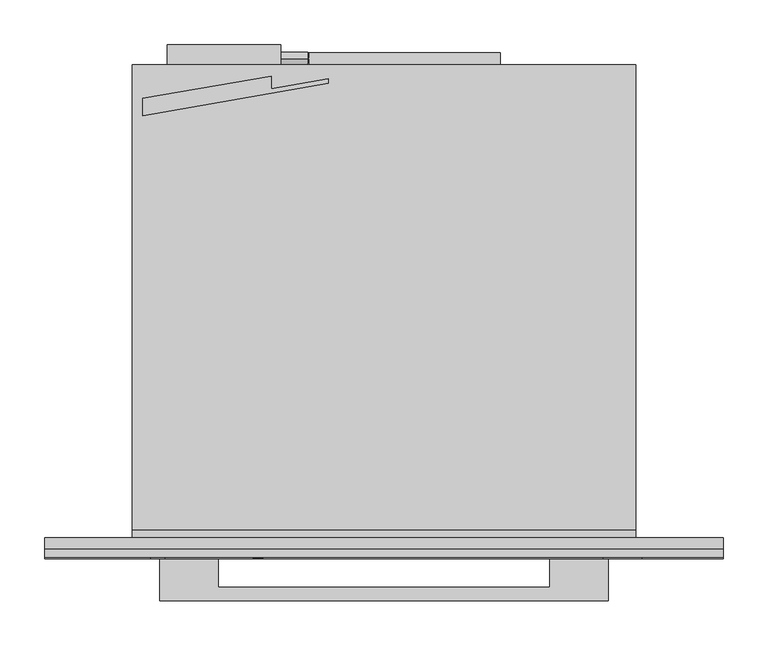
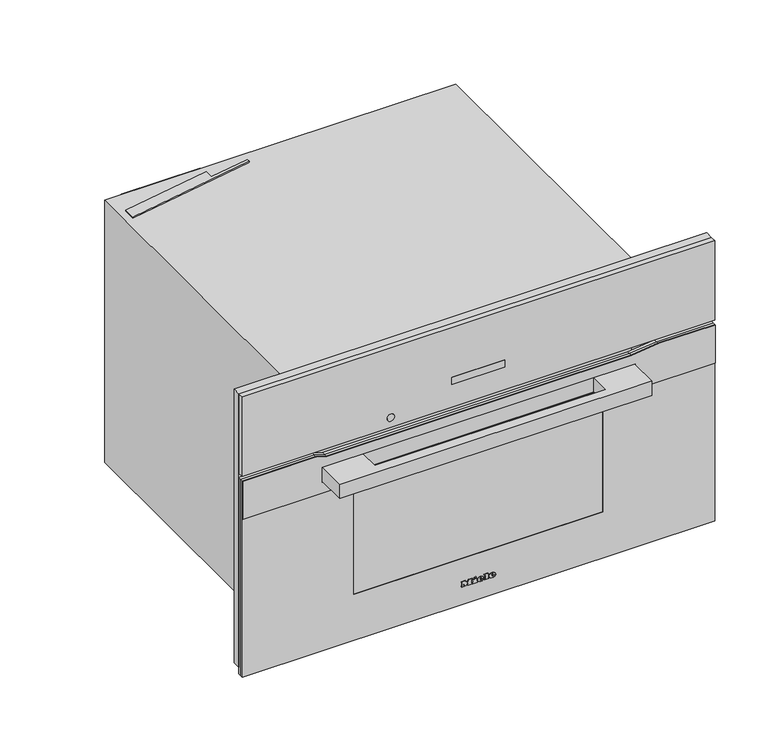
"""IFC4 building model written with IfcOpenShell, lengths in millimetres: proxy geometry, 11804570_USA_H7270BM_EDST-CLST : 22727046_USA_11804570_H7270BM_EDST-CLST."""

import ifcopenshell
import ifcopenshell.guid

model = None  # the IFC model being written
_history = None  # IfcOwnerHistory: only IFC2X3 demands one
_inside = {}  # id of a spatial element -> (the spatial element, [elements in it])
_under = {}  # id of a project, library or spatial element -> (it, [spatial elements below it])
_declared = {}  # id of a project -> (the project, [libraries it declares])
_typed = {}  # id of a type object -> (the type object, [elements of that type])
_made_of = {}  # id of a material, layer set ... -> (it, [elements and type objects made of it])


def new_model(schema):
    """Start an empty IFC model of exactly this schema.

    Asked for "IFC4X3", IfcOpenShell would pick the latest addendum, in which some entities
    have other attributes; the version numbers below select the first issue.
    IFC2X3 requires an IfcOwnerHistory on every rooted entity: one is made here for all.
    """
    global model, _history
    if schema == "IFC4X3":
        model = ifcopenshell.file(schema_version=(4, 3, 0, 0))
    else:
        model = ifcopenshell.file(schema=schema)
    _inside.clear()
    _under.clear()
    _declared.clear()
    _typed.clear()
    _made_of.clear()
    _history = None
    if model.schema == "IFC2X3":
        org = make("IfcOrganization", Name="unknown")
        user = make(
            "IfcPersonAndOrganization",
            ThePerson=make("IfcPerson", FamilyName="unknown"),
            TheOrganization=org,
        )
        app = make(
            "IfcApplication",
            ApplicationDeveloper=org,
            Version="unknown",
            ApplicationFullName="unknown",
            ApplicationIdentifier="unknown",
        )
        _history = make(
            "IfcOwnerHistory",
            OwningUser=user,
            OwningApplication=app,
            ChangeAction="ADDED",
            CreationDate=0,
        )
    return model


def make(cls, **values):
    """One entity of the class cls with the attributes given. An attribute that is None is left unset."""
    return model.create_entity(
        cls, **{name: value for name, value in values.items() if value is not None}
    )


def rooted(cls, **values):
    """An entity with a GlobalId (a new one), such as an element, a storey or a relation."""
    return make(cls, GlobalId=ifcopenshell.guid.new(), OwnerHistory=_history, **values)


def si_unit(unit_type, name, prefix=None):
    """IfcSIUnit, for example si_unit("LENGTHUNIT", "METRE", prefix="MILLI")."""
    return make("IfcSIUnit", UnitType=unit_type, Prefix=prefix, Name=name)


def assignment(units):
    """IfcUnitAssignment: the units of a project."""
    return None if units is None else make("IfcUnitAssignment", Units=units)


def point(xyz):
    """IfcCartesianPoint."""
    return None if xyz is None else make("IfcCartesianPoint", Coordinates=xyz)


def direction(xyz):
    """IfcDirection."""
    return None if xyz is None else make("IfcDirection", DirectionRatios=xyz)


def frame(location, z_axis=None, x_axis=None):
    """IfcAxis2Placement3D, a coordinate frame: its origin and axes. An axis left out is left unset."""
    return make(
        "IfcAxis2Placement3D",
        Location=point(location),
        Axis=direction(z_axis),
        RefDirection=direction(x_axis),
    )


def frame_2d(location, x_axis=None):
    """IfcAxis2Placement2D, a coordinate frame in the plane: its origin and x axis."""
    return make(
        "IfcAxis2Placement2D", Location=point(location), RefDirection=direction(x_axis)
    )


def origin():
    """The frame at (0, 0, 0) with its axes left unset."""
    return frame((0.0, 0.0, 0.0))


def place(relative_to, where):
    """IfcLocalPlacement: puts the frame where relative to a parent placement (None: the world)."""
    return make(
        "IfcLocalPlacement", PlacementRelTo=relative_to, RelativePlacement=where
    )


def context(
    kind, dimensions, precision=None, world=None, true_north=None, identifier=None
):
    """IfcGeometricRepresentationContext, for example the 3D "Model" context."""
    return make(
        "IfcGeometricRepresentationContext",
        ContextIdentifier=identifier,
        ContextType=kind,
        CoordinateSpaceDimension=dimensions,
        Precision=precision,
        WorldCoordinateSystem=world,
        TrueNorth=true_north,
    )


def project(units=None, contexts=None):
    """IfcProject with its units and contexts."""
    return rooted(
        "IfcProject",
        Name="project",
        RepresentationContexts=contexts,
        UnitsInContext=assignment(units),
    )


def spatial(cls, under=None, at=None, **own):
    """A site, building, storey or space (cls), placed at a placement, below another one or the project."""
    s = rooted(cls, ObjectPlacement=at, **own)
    if under is not None:
        _under.setdefault(under.id(), (under, []))[1].append(s)
    return s


def polyline(points):
    """IfcPolyline through the points."""
    return make("IfcPolyline", Points=[point(p) for p in points])


def circle_curve(where, radius):
    """IfcCircle in the frame where."""
    return make("IfcCircle", Position=where, Radius=radius)


def ellipse_curve(where, semi_axis1, semi_axis2):
    """IfcEllipse in the frame where."""
    return make(
        "IfcEllipse", Position=where, SemiAxis1=semi_axis1, SemiAxis2=semi_axis2
    )


def trimmed(basis, trim1, trim2, sense, master):
    """IfcTrimmedCurve: the piece of a basis curve between two trims."""
    return make(
        "IfcTrimmedCurve",
        BasisCurve=basis,
        Trim1=trim1,
        Trim2=trim2,
        SenseAgreement=sense,
        MasterRepresentation=master,
    )


def segment(curve, same_sense, transition):
    """IfcCompositeCurveSegment."""
    return make(
        "IfcCompositeCurveSegment",
        Transition=transition,
        SameSense=same_sense,
        ParentCurve=curve,
    )


def composite_curve(segments, self_intersect=None):
    """IfcCompositeCurve: segments joined end to end."""
    return make("IfcCompositeCurve", Segments=segments, SelfIntersect=self_intersect)


def outline(outer, holes=None, kind="AREA"):
    """IfcArbitraryClosedProfileDef: a profile drawn as a closed curve; with holes, ...WithVoids."""
    if holes is None:
        return make("IfcArbitraryClosedProfileDef", ProfileType=kind, OuterCurve=outer)
    return make(
        "IfcArbitraryProfileDefWithVoids",
        ProfileType=kind,
        OuterCurve=outer,
        InnerCurves=holes,
    )


def extrude(swept, where, along, depth):
    """IfcExtrudedAreaSolid: the profile swept, set in the frame where, extruded along a direction by depth."""
    return make(
        "IfcExtrudedAreaSolid",
        SweptArea=swept,
        Position=where,
        ExtrudedDirection=direction(along),
        Depth=depth,
    )


def faces_of(points, faces, orient=None, outer=None):
    """IfcFace entities. A face is a list of loops; a loop is a list of indices into points, from 0.

    orient and outer hold one flag for each loop. By default every Orientation is true, the
    first loop of a face is its IfcFaceOuterBound and the others are IfcFaceBound.
    """
    made = []
    for i, loops in enumerate(faces):
        bounds = []
        for j, loop in enumerate(loops):
            is_outer = j == 0 if outer is None else outer[i][j]
            bounds.append(
                make(
                    "IfcFaceOuterBound" if is_outer else "IfcFaceBound",
                    Bound=make("IfcPolyLoop", Polygon=[points[k] for k in loop]),
                    Orientation=True if orient is None else orient[i][j],
                )
            )
        made.append(make("IfcFace", Bounds=bounds))
    return made


def faceted_brep(points, faces, orient=None, outer=None, voids=None):
    """IfcFacetedBrep: a solid bounded by flat faces; with voids (closed shells), ...WithVoids."""
    shared = [point(p) for p in points]
    hull = make("IfcClosedShell", CfsFaces=faces_of(shared, faces, orient, outer))
    if voids is None:
        return make("IfcFacetedBrep", Outer=hull)
    return make(
        "IfcFacetedBrepWithVoids",
        Outer=hull,
        Voids=[
            make(cls, CfsFaces=faces_of(shared, fs, o, b)) for cls, fs, o, b in voids
        ],
    )


def shape(context_of_items, identifier, shape_type, items):
    """IfcShapeRepresentation: the items that make up one representation, for example the "Body"."""
    return make(
        "IfcShapeRepresentation",
        ContextOfItems=context_of_items,
        RepresentationIdentifier=identifier,
        RepresentationType=shape_type,
        Items=items,
    )


def source(mapping_origin, context_of_items, identifier, shape_type, items):
    """IfcRepresentationMap: a shape defined once, which mapped items show again and again."""
    return make(
        "IfcRepresentationMap",
        MappingOrigin=mapping_origin,
        MappedRepresentation=shape(context_of_items, identifier, shape_type, items),
    )


def transform(
    local_origin,
    x_axis=None,
    y_axis=None,
    z_axis=None,
    scale=None,
    scale2=None,
    scale3=None,
    uniform=True,
):
    """IfcCartesianTransformationOperator3D, or its non-uniform kind. x_axis, y_axis, z_axis: its Axis1, 2, 3."""
    if uniform:
        return make(
            "IfcCartesianTransformationOperator3D",
            Axis1=direction(x_axis),
            Axis2=direction(y_axis),
            LocalOrigin=point(local_origin),
            Scale=scale,
            Axis3=direction(z_axis),
        )
    return make(
        "IfcCartesianTransformationOperator3DnonUniform",
        Axis1=direction(x_axis),
        Axis2=direction(y_axis),
        LocalOrigin=point(local_origin),
        Scale=scale,
        Axis3=direction(z_axis),
        Scale2=scale2,
        Scale3=scale3,
    )


def mapped(mapping_source, mapping_target):
    """IfcMappedItem: shows the shape of a source again, moved by a transform."""
    return make(
        "IfcMappedItem", MappingSource=mapping_source, MappingTarget=mapping_target
    )


def made_of(thing, what):
    """Note that an element or type object is made of a material, layer set ...; save() writes the relation."""
    if what is not None:
        _made_of.setdefault(what.id(), (what, []))[1].append(thing)
    return thing


def element(
    cls,
    number,
    at=None,
    inside=None,
    cuts=None,
    type_object=None,
    material=None,
    context=None,
    identifier="Body",
    shape_type=None,
    held_by="IfcProductDefinitionShape",
    body=None,
    shapes=None,
    **own,
):
    """One element of the class cls, such as IfcWall. Its Tag is "e" and its number.

    at: its placement. inside: the storey or other place that contains it. cuts: it is an
    opening in that element (IfcRelVoidsElement). A single representation is given by context,
    identifier, shape_type and body (its items); several are given by shapes. held_by: the class
    of the entity that holds the representations. save() writes the other relations.
    """
    e = rooted(cls, Tag="e%d" % number, ObjectPlacement=at, **own)
    if body is not None:
        shapes = [shape(context, identifier, shape_type, body)]
    if shapes is not None:
        e.Representation = make(held_by, Representations=shapes)
    if inside is not None:
        _inside.setdefault(inside.id(), (inside, []))[1].append(e)
    if cuts is not None:
        rooted(
            "IfcRelVoidsElement", RelatingBuildingElement=cuts, RelatedOpeningElement=e
        )
    if type_object is not None:
        _typed.setdefault(type_object.id(), (type_object, []))[1].append(e)
    return made_of(e, material)


def aggregate(whole, parts):
    """IfcRelAggregates: a whole, such as a stair, and the parts it consists of."""
    return rooted("IfcRelAggregates", RelatingObject=whole, RelatedObjects=parts)


def save(model, path):
    """Write the relations noted so far, then the file.

    IfcRelAggregates (storeys below a building ...), IfcRelContainedInSpatialStructure (elements
    in a storey), IfcRelDefinesByType, IfcRelAssociatesMaterial and IfcRelDeclares: one each for
    every whole, place, type object, material and project.
    """
    for whole, parts in _under.values():
        aggregate(whole, parts)
    for where, things in _inside.values():
        rooted(
            "IfcRelContainedInSpatialStructure",
            RelatedElements=things,
            RelatingStructure=where,
        )
    for kind, things in _typed.values():
        rooted("IfcRelDefinesByType", RelatedObjects=things, RelatingType=kind)
    for what, things in _made_of.values():
        rooted("IfcRelAssociatesMaterial", RelatedObjects=things, RelatingMaterial=what)
    for by, libraries in _declared.values():
        rooted("IfcRelDeclares", RelatingContext=by, RelatedDefinitions=libraries)
    model.write(path)


def plane_surface(at):
    """IfcPlane: the flat surface through the origin of the frame at, square to its z axis."""
    return make("IfcPlane", Position=at)


def cylinder_surface(at, radius):
    """IfcCylindricalSurface: all points at the distance radius from the z axis of the frame at."""
    return make("IfcCylindricalSurface", Position=at, Radius=radius)


def revolved_surface(curve, axis_point, axis_direction):
    """IfcSurfaceOfRevolution: the curve turned about the line through axis_point along axis_direction."""
    return make(
        "IfcSurfaceOfRevolution",
        SweptCurve=make("IfcArbitraryOpenProfileDef", ProfileType="CURVE", Curve=curve),
        AxisPosition=make("IfcAxis1Placement", Location=point(axis_point), Axis=direction(axis_direction)),
    )


def extruded_surface(curve, direction_of_extrusion, depth):
    """IfcSurfaceOfLinearExtrusion: the curve pushed along a direction by depth."""
    return make(
        "IfcSurfaceOfLinearExtrusion",
        SweptCurve=make("IfcArbitraryOpenProfileDef", ProfileType="CURVE", Curve=curve),
        ExtrudedDirection=direction(direction_of_extrusion),
        Depth=depth,
    )


def advanced_brep(points, edges, surfaces, faces):
    """IfcAdvancedBrep: a solid bounded by faces that lie on surfaces and meet in shared edges.

    An edge is (start, end): straight between two places in points (the first is 0);
    or (start, end, curve); or (start, end, curve, False) where it runs against its curve.
    A face is (place in surfaces, loops), or (place, loops, False) where it looks against
    its surface's normal. A loop lists edges by number (the first is 1), with a minus sign
    where the edge is run from its end to its start. The first loop is the outer one.
    """
    corners = [point(p) for p in points]
    vertices = [make("IfcVertexPoint", VertexGeometry=c) for c in corners]
    made = []
    for start, end, *more in edges:
        made.append(
            make(
                "IfcEdgeCurve",
                EdgeStart=vertices[start],
                EdgeEnd=vertices[end],
                EdgeGeometry=more[0] if more else make("IfcPolyline", Points=[corners[start], corners[end]]),
                SameSense=more[1] if len(more) > 1 else True,
            )
        )
    hull = []
    for where, loops, *sense in faces:
        bounds = []
        for j, loop in enumerate(loops):
            ring = [make("IfcOrientedEdge", EdgeElement=made[abs(k) - 1], Orientation=k > 0) for k in loop]
            bounds.append(
                make(
                    "IfcFaceOuterBound" if j == 0 else "IfcFaceBound",
                    Bound=make("IfcEdgeLoop", EdgeList=ring),
                    Orientation=True,
                )
            )
        hull.append(make("IfcAdvancedFace", Bounds=bounds, FaceSurface=surfaces[where], SameSense=sense[0] if sense else True))
    return make("IfcAdvancedBrep", Outer=make("IfcClosedShell", CfsFaces=hull))


def specialty_equipment_06096c74(model_context):
    return source(origin(), model_context, "Body", "SolidModel", [
        advanced_brep(
        [(21.28, -23.0, 36.133), (21.28, -23.0, 37.042), (27.301, -23.0, 37.042), (16.825, -23.0, 37.042), (19.3, -23.0, 34.0), (27.148, -23.0, 36.133), (24.43, -23.0, 36.133), (22.288, -23.0, 35.125), (21.28, -23.0, 38.194), (21.28, -23.0, 39.175), (22.819, -23.0, 39.175), (22.819, -23.0, 38.194), (21.28, -22.0, 36.133), (22.288, -22.0, 35.125), (24.43, -22.0, 36.133), (27.148, -22.0, 36.133), (19.3, -22.0, 34.0), (16.825, -22.0, 37.042), (27.301, -22.0, 37.042), (21.28, -22.0, 37.042), (21.28, -22.0, 38.194), (22.819, -22.0, 38.194), (22.819, -22.0, 39.175), (21.28, -22.0, 39.175)],
        [
            (0, 1),
            (1, 2),
            (2, 3, ellipse_curve(frame((22.063, -23.0, 37.042), z_axis=(0.0, -1.0, 0.0), x_axis=(-1.0, 0.0, 0.0)), 5.238, 4.329)),
            (3, 4, circle_curve(frame((20.3080491, -23.0, 37.348), z_axis=(0.0, -1.0, 0.0), x_axis=(0.0, 0.0, -1.0)), 3.4964649)),
            (4, 5, circle_curve(frame((21.9581428, -23.0, 39.724), z_axis=(0.0, -1.0, 0.0), x_axis=(0.0, 0.0, -1.0)), 6.3110933)),
            (5, 6),
            (6, 7, circle_curve(frame((22.7279412, -23.0, 36.97), z_axis=(0.0, 1.0, 0.0), x_axis=(0.0, 0.0, -1.0)), 1.896727)),
            (7, 0, circle_curve(frame((22.288, -23.0, 36.133), z_axis=(0.0, 1.0, 0.0), x_axis=(0.0, 0.0, -1.0)), 1.008)),
            (8, 9),
            (9, 10, circle_curve(frame((22.0495, -23.0, 39.175), z_axis=(0.0, 1.0, 0.0), x_axis=(0.0, 0.0, -1.0)), 0.7695)),
            (10, 11),
            (11, 8),
            (12, 13, circle_curve(frame((22.288, -22.0, 36.133), z_axis=(0.0, -1.0, 0.0), x_axis=(0.0, 0.0, -1.0)), 1.008)),
            (13, 14, circle_curve(frame((22.7279412, -22.0, 36.97), z_axis=(0.0, -1.0, 0.0), x_axis=(0.0, 0.0, -1.0)), 1.896727)),
            (14, 15),
            (15, 16, circle_curve(frame((21.9581428, -22.0, 39.724), z_axis=(0.0, 1.0, 0.0), x_axis=(0.0, 0.0, -1.0)), 6.3110933)),
            (16, 17, circle_curve(frame((20.3080491, -22.0, 37.348), z_axis=(0.0, 1.0, 0.0), x_axis=(0.0, 0.0, -1.0)), 3.4964649)),
            (17, 18, ellipse_curve(frame((22.063, -22.0, 37.042), z_axis=(0.0, 1.0, 0.0), x_axis=(-1.0, 0.0, 0.0)), 5.238, 4.329)),
            (18, 19),
            (19, 12),
            (20, 21),
            (21, 22),
            (22, 23, circle_curve(frame((22.0495, -22.0, 39.175), z_axis=(0.0, -1.0, 0.0), x_axis=(0.0, 0.0, -1.0)), 0.7695)),
            (23, 20),
            (0, 12),
            (19, 1),
            (18, 2),
            (5, 15),
            (14, 6),
            (17, 3),
            (13, 7),
            (16, 4),
            (8, 20),
            (23, 9),
            (22, 10),
            (21, 11),
        ],
        [
            plane_surface(frame((21.28, -23.0, 37.042), z_axis=(0.0, -1.0, 0.0), x_axis=(0.0, 0.0, 1.0))),
            plane_surface(frame((21.28, -22.0, 37.042), z_axis=(0.0, 1.0, 0.0), x_axis=(0.0, 0.0, -1.0))),
            plane_surface(frame((21.28, -23.0, 36.133), z_axis=(1.0, 0.0, 0.0), x_axis=(0.0, 1.0, 0.0))),
            plane_surface(frame((21.28, -23.0, 37.042), z_axis=(0.0, 0.0, -1.0), x_axis=(0.0, 1.0, 0.0))),
            plane_surface(frame((27.148, -23.0, 36.133), z_axis=(0.0, 0.0, 1.0), x_axis=(0.0, 1.0, 0.0))),
            extruded_surface(trimmed(ellipse_curve(frame((22.063, -21.0, 37.042), z_axis=(0.0, -1.0, 0.0), x_axis=(-1.0, 0.0, 0.0)), 5.238, 4.329), [point((27.301, -21.0, 37.042))], [point((16.825, -21.0, 37.042))], True, "CARTESIAN"), (0.0, -1.0, 0.0), 1.0),
            revolved_surface(polyline([(22.7279412, -22.0, 35.073273), (22.7279412, -23.0, 35.073273)]), (22.7279412, -22.0, 36.97), (0.0, 1.0, 0.0)),
            revolved_surface(polyline([(22.288, -22.0, 35.125), (22.288, -23.0, 35.125)]), (22.288, -22.0, 36.133), (0.0, 1.0, 0.0)),
            cylinder_surface(frame((20.3080491, -22.0, 37.348), z_axis=(0.0, -1.0, 0.0), x_axis=(0.0, 0.0, -1.0)), 3.4964649),
            cylinder_surface(frame((21.9581428, -22.0, 39.724), z_axis=(0.0, -1.0, 0.0), x_axis=(0.0, 0.0, -1.0)), 6.3110933),
            plane_surface(frame((21.28, -23.0, 38.194), z_axis=(1.0, 0.0, 0.0), x_axis=(0.0, 1.0, 0.0))),
            revolved_surface(polyline([(22.0495, -22.0, 38.405499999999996), (22.0495, -23.0, 38.405499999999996)]), (22.0495, -22.0, 39.175), (0.0, 1.0, 0.0)),
            plane_surface(frame((22.819, -23.0, 39.175), z_axis=(-1.0, 0.0, 0.0), x_axis=(0.0, 1.0, 0.0))),
            plane_surface(frame((22.819, -23.0, 38.194), z_axis=(0.0, 0.0, 1.0), x_axis=(0.0, 1.0, 0.0))),
        ],
        [
            (0, [[1, 2, 3, 4, 5, 6, 7, 8], [9, 10, 11, 12]]),
            (1, [[13, 14, 15, 16, 17, 18, 19, 20], [21, 22, 23, 24]]),
            (2, [[-1, 25, -20, 26]]),
            (3, [[-2, -26, -19, 27]]),
            (4, [[-6, 28, -15, 29]]),
            (5, [[-3, -27, -18, 30]]),
            (6, [[-7, -29, -14, 31]]),
            (7, [[-8, -31, -13, -25]]),
            (8, [[-4, -30, -17, 32]]),
            (9, [[-5, -32, -16, -28]]),
            (10, [[-9, 33, -24, 34]]),
            (11, [[-10, -34, -23, 35]]),
            (12, [[-11, -35, -22, 36]]),
            (13, [[-12, -36, -21, -33]]),
        ],
    ),
        advanced_brep(
        [(2.497, -23.0, 36.133), (2.497, -23.0, 37.042), (8.518, -23.0, 37.042), (-1.958, -23.0, 37.042), (0.517, -23.0, 34.0), (8.365, -23.0, 36.133), (5.647, -23.0, 36.133), (3.505, -23.0, 35.125), (2.497, -23.0, 38.194), (2.497, -23.0, 39.175), (4.036, -23.0, 39.175), (4.036, -23.0, 38.194), (2.497, -22.0, 36.133), (3.505, -22.0, 35.125), (5.647, -22.0, 36.133), (8.365, -22.0, 36.133), (0.517, -22.0, 34.0), (-1.958, -22.0, 37.042), (8.518, -22.0, 37.042), (2.497, -22.0, 37.042), (2.497, -22.0, 38.194), (4.036, -22.0, 38.194), (4.036, -22.0, 39.175), (2.497, -22.0, 39.175)],
        [
            (0, 1),
            (1, 2),
            (2, 3, ellipse_curve(frame((3.28, -23.0, 37.042), z_axis=(0.0, -1.0, 0.0), x_axis=(-1.0, 0.0, 0.0)), 5.238, 4.329)),
            (3, 4, circle_curve(frame((1.5250491, -23.0, 37.348), z_axis=(0.0, -1.0, 0.0), x_axis=(0.0, 0.0, -1.0)), 3.4964649)),
            (4, 5, circle_curve(frame((3.1751428, -23.0, 39.724), z_axis=(0.0, -1.0, 0.0), x_axis=(0.0, 0.0, -1.0)), 6.3110933)),
            (5, 6),
            (6, 7, circle_curve(frame((3.9449412, -23.0, 36.97), z_axis=(0.0, 1.0, 0.0), x_axis=(0.0, 0.0, -1.0)), 1.896727)),
            (7, 0, circle_curve(frame((3.505, -23.0, 36.133), z_axis=(0.0, 1.0, 0.0), x_axis=(0.0, 0.0, -1.0)), 1.008)),
            (8, 9),
            (9, 10, circle_curve(frame((3.2665, -23.0, 39.175), z_axis=(0.0, 1.0, 0.0), x_axis=(0.0, 0.0, -1.0)), 0.7695)),
            (10, 11),
            (11, 8),
            (12, 13, circle_curve(frame((3.505, -22.0, 36.133), z_axis=(0.0, -1.0, 0.0), x_axis=(0.0, 0.0, -1.0)), 1.008)),
            (13, 14, circle_curve(frame((3.9449412, -22.0, 36.97), z_axis=(0.0, -1.0, 0.0), x_axis=(0.0, 0.0, -1.0)), 1.896727)),
            (14, 15),
            (15, 16, circle_curve(frame((3.1751428, -22.0, 39.724), z_axis=(0.0, 1.0, 0.0), x_axis=(0.0, 0.0, -1.0)), 6.3110933)),
            (16, 17, circle_curve(frame((1.5250491, -22.0, 37.348), z_axis=(0.0, 1.0, 0.0), x_axis=(0.0, 0.0, -1.0)), 3.4964649)),
            (17, 18, ellipse_curve(frame((3.28, -22.0, 37.042), z_axis=(0.0, 1.0, 0.0), x_axis=(-1.0, 0.0, 0.0)), 5.238, 4.329)),
            (18, 19),
            (19, 12),
            (20, 21),
            (21, 22),
            (22, 23, circle_curve(frame((3.2665, -22.0, 39.175), z_axis=(0.0, -1.0, 0.0), x_axis=(0.0, 0.0, -1.0)), 0.7695)),
            (23, 20),
            (0, 12),
            (19, 1),
            (18, 2),
            (5, 15),
            (14, 6),
            (17, 3),
            (13, 7),
            (16, 4),
            (8, 20),
            (23, 9),
            (22, 10),
            (21, 11),
        ],
        [
            plane_surface(frame((2.497, -23.0, 37.042), z_axis=(0.0, -1.0, 0.0), x_axis=(0.0, 0.0, 1.0))),
            plane_surface(frame((2.497, -22.0, 37.042), z_axis=(0.0, 1.0, 0.0), x_axis=(0.0, 0.0, -1.0))),
            plane_surface(frame((2.497, -23.0, 36.133), z_axis=(1.0, 0.0, 0.0), x_axis=(0.0, 1.0, 0.0))),
            plane_surface(frame((2.497, -23.0, 37.042), z_axis=(0.0, 0.0, -1.0), x_axis=(0.0, 1.0, 0.0))),
            plane_surface(frame((8.365, -23.0, 36.133), z_axis=(0.0, 0.0, 1.0), x_axis=(0.0, 1.0, 0.0))),
            extruded_surface(trimmed(ellipse_curve(frame((3.28, -21.0, 37.042), z_axis=(0.0, -1.0, 0.0), x_axis=(-1.0, 0.0, 0.0)), 5.238, 4.329), [point((8.518, -21.0, 37.042))], [point((-1.958, -21.0, 37.042))], True, "CARTESIAN"), (0.0, -1.0, 0.0), 1.0),
            revolved_surface(polyline([(3.9449412, -22.0, 35.073273), (3.9449412, -23.0, 35.073273)]), (3.9449412, -22.0, 36.97), (0.0, 1.0, 0.0)),
            revolved_surface(polyline([(3.505, -22.0, 35.125), (3.505, -23.0, 35.125)]), (3.505, -22.0, 36.133), (0.0, 1.0, 0.0)),
            cylinder_surface(frame((1.5250491, -22.0, 37.348), z_axis=(0.0, -1.0, 0.0), x_axis=(0.0, 0.0, -1.0)), 3.4964649),
            cylinder_surface(frame((3.1751428, -22.0, 39.724), z_axis=(0.0, -1.0, 0.0), x_axis=(0.0, 0.0, -1.0)), 6.3110933),
            plane_surface(frame((2.497, -23.0, 38.194), z_axis=(1.0, 0.0, 0.0), x_axis=(0.0, 1.0, 0.0))),
            revolved_surface(polyline([(3.2665, -22.0, 38.405499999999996), (3.2665, -23.0, 38.405499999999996)]), (3.2665, -22.0, 39.175), (0.0, 1.0, 0.0)),
            plane_surface(frame((4.036, -23.0, 39.175), z_axis=(-1.0, 0.0, 0.0), x_axis=(0.0, 1.0, 0.0))),
            plane_surface(frame((4.036, -23.0, 38.194), z_axis=(0.0, 0.0, 1.0), x_axis=(0.0, 1.0, 0.0))),
        ],
        [
            (0, [[1, 2, 3, 4, 5, 6, 7, 8], [9, 10, 11, 12]]),
            (1, [[13, 14, 15, 16, 17, 18, 19, 20], [21, 22, 23, 24]]),
            (2, [[-1, 25, -20, 26]]),
            (3, [[-2, -26, -19, 27]]),
            (4, [[-6, 28, -15, 29]]),
            (5, [[-3, -27, -18, 30]]),
            (6, [[-7, -29, -14, 31]]),
            (7, [[-8, -31, -13, -25]]),
            (8, [[-4, -30, -17, 32]]),
            (9, [[-5, -32, -16, -28]]),
            (10, [[-9, 33, -24, 34]]),
            (11, [[-10, -34, -23, 35]]),
            (12, [[-11, -35, -22, 36]]),
            (13, [[-12, -36, -21, -33]]),
        ],
    ),
        extrude(outline(polyline([(42.469, -7.34), (41.011, -6.656), (42.433, -3.605), (43.891, -4.28), (42.469, -7.34)])), frame((0.0, -23.0, 0.0), z_axis=(0.0, 1.0, 0.0), x_axis=(0.0, 0.0, 1.0)), (0.0, 0.0, 1.0), 1.0),
        extrude(outline(polyline([(40.813, -9.563), (39.202, -9.563), (39.202, -8.492), (35.512, -8.492), (35.512, -9.563), (34.0, -9.563), (34.0, -2.462), (35.512, -2.462), (35.512, -3.506), (40.813, -3.506), (40.813, -9.563)])), frame((0.0, -23.0, 0.0), z_axis=(0.0, 1.0, 0.0), x_axis=(0.0, 0.0, 1.0)), (0.0, 0.0, 1.0), 1.0),
        extrude(outline(polyline([(41.533, 9.022), (41.533, 10.102), (35.512, 10.102), (35.512, 9.022), (34.0, 9.022), (34.0, 16.321), (35.512, 16.321), (35.512, 15.214), (43.0, 15.214), (43.0, 9.022), (41.533, 9.022)])), frame((0.0, -23.0, 0.0), z_axis=(0.0, 1.0, 0.0), x_axis=(0.0, 0.0, 1.0)), (0.0, 0.0, 1.0), 1.0),
        extrude(outline(polyline([(41.533, -27.5), (41.533, -26.411), (35.512, -26.411), (35.512, -27.5), (34.0, -27.5), (34.0, -23.54), (35.512, -23.54), (35.512, -24.62), (39.3341247, -24.62), (34.0, -20.597), (39.4402223, -16.556), (35.512, -16.556), (35.512, -17.663), (34.0, -17.663), (34.0, -10.481), (35.512, -10.481), (35.512, -11.624), (41.533, -11.624), (41.533, -10.481), (43.0, -10.481), (43.0, -15.962), (39.625, -18.59), (43.0, -21.227), (43.0, -27.5), (41.533, -27.5)])), frame((0.0, -23.0, 0.0), z_axis=(0.0, 1.0, 0.0), x_axis=(0.0, 0.0, 1.0)), (0.0, 0.0, 1.0), 1.0),
        extrude(outline(polyline([(-250.0, -70.3), (-250.0, -22.0), (-185.0, -22.0), (-185.0, -55.3), (185.0, -55.3), (185.0, -22.0), (250.0, -22.0), (250.0, -70.3), (-250.0, -70.3)])), frame((0.0, 0.0, 291.0), z_axis=(0.0, 0.0, 1.0), x_axis=(1.0, 0.0, 0.0)), (0.0, 0.0, 1.0), 24.0),
        extrude(outline(polyline([(337.0, -378.5), (4.0, -378.5), (4.0, 378.5), (337.0, 378.5), (337.0, 287.3542631), (332.0, 244.0), (332.0, -244.0), (337.0, -260.3542631), (337.0, -378.5)]), holes=[polyline([(252.0, 199.5), (82.0, 199.5), (82.0, -199.5), (252.0, -199.5), (252.0, 199.5)])]), frame((0.0, -22.0, 0.0), z_axis=(0.0, 1.0, 0.0), x_axis=(0.0, 0.0, 1.0)), (0.0, 0.0, 1.0), 4.0),
        extrude(outline(polyline([(337.0, -378.5), (272.0, -378.5), (272.0, 378.5), (337.0, 378.5), (337.0, 287.3542631), (332.0, 244.0), (332.0, -244.0), (337.0, -260.3542631), (337.0, -378.5)]), holes=[polyline([(315.5, -250.5), (315.5, 250.5), (290.5, 250.5), (290.5, -250.5), (315.5, -250.5)])]), frame((0.0, -23.3, 0.0), z_axis=(0.0, 1.0, 0.0), x_axis=(0.0, 0.0, 1.0)), (0.0, 0.0, 1.0), 1.3),
        extrude(outline(polyline([(337.0, -378.5), (4.0, -378.5), (4.0, 378.5), (337.0, 378.5), (337.0, 287.3542631), (332.0, 244.0), (332.0, -244.0), (337.0, -260.3542631), (337.0, -378.5)])), frame((0.0, -18.0, 0.0), z_axis=(0.0, 1.0, 0.0), x_axis=(0.0, 0.0, 1.0)), (0.0, 0.0, 1.0), 5.0),
        extrude(outline(polyline([(-199.5, -18.0), (199.5, -18.0), (199.5, -22.0), (-199.5, -22.0), (-199.5, -18.0)])), frame((0.0, 0.0, 82.0), z_axis=(0.0, 0.0, 1.0), x_axis=(1.0, 0.0, 0.0)), (0.0, 0.0, 1.0), 170.0),
        extrude(outline(polyline([(-42.5, -21.0), (42.5, -21.0), (42.5, -22.0), (-42.5, -22.0), (-42.5, -21.0)])), frame((0.0, 0.0, 382.5), z_axis=(0.0, 0.0, 1.0), x_axis=(1.0, 0.0, 0.0)), (0.0, 0.0, 1.0), 12.0),
        faceted_brep([(378.5, -22.0, 479.0), (-378.5, -22.0, 479.0), (-378.5, -22.0, 344.0), (378.5, -22.0, 344.0), (42.5, -22.0, 394.5), (42.5, -22.0, 382.5), (-42.5, -22.0, 382.5), (-42.5, -22.0, 394.5), (378.5, -13.0, 479.0), (378.5, -13.0, 344.0), (-378.5, -13.0, 344.0), (-378.5, -13.0, 479.0), (42.5, -21.0, 394.5), (-42.5, -21.0, 394.5), (-42.5, -21.0, 382.5), (42.5, -21.0, 382.5)], [[[0, 1, 2, 3], [4, 5, 6, 7]], [[8, 9, 10, 11]], [[1, 0, 8, 11]], [[2, 1, 11, 10]], [[3, 2, 10, 9]], [[0, 3, 9, 8]], [[12, 13, 14, 15]], [[12, 15, 5, 4]], [[15, 14, 6, 5]], [[14, 13, 7, 6]], [[13, 12, 4, 7]]]),
        extrude(outline(composite_curve([segment(trimmed(circle_curve(frame_2d((361.0, -140.5745637)), 6.0), [point((361.0, -146.5745637))], [point((361.0, -134.5745637))], False, "CARTESIAN"), True, "CONTINUOUS"), segment(trimmed(circle_curve(frame_2d((361.0, -140.5745637)), 6.0), [point((361.0, -134.5745637))], [point((361.0, -146.5745637))], False, "CARTESIAN"), True, "CONTINUOUS")], self_intersect=False)), frame((0.0, -22.5, 0.0), z_axis=(0.0, 1.0, 0.0), x_axis=(0.0, 0.0, 1.0)), (0.0, 0.0, 1.0), 1.0),
        extrude(outline(polyline([(-269.0, 490.2851942), (-126.0, 515.1547594), (-126.0, 500.9446163), (-62.0, 512.0750511), (-62.0, 507.0), (-269.0, 471.0), (-269.0, 490.2851942)])), frame((0.0, 0.0, 445.0), z_axis=(0.0, 0.0, 1.0), x_axis=(1.0, 0.0, 0.0)), (0.0, 0.0, 1.0), 2.0),
        extrude(outline(polyline([(528.134837, 358.3256163), (533.9911721, 358.3256163), (533.9911721, 357.3256163), (529.134837, 357.3256163), (529.134837, 353.8256163), (532.0849866, 353.8256163), (532.0849866, 352.8256163), (529.134837, 352.8256163), (529.134837, 349.3256163), (533.9911721, 349.3256163), (533.9911721, 348.3256163), (528.134837, 348.3256163), (528.134837, 358.3256163)])), frame((-85.0, 0.0, 0.0), z_axis=(1.0, 0.0, 0.0), x_axis=(0.0, 1.0, 0.0)), (0.0, 0.0, 1.0), 1.0),
        extrude(outline(polyline([(535.4911721, 348.3256163), (535.4911721, 358.3256163), (536.5959622, 358.3256163), (536.5959622, 349.3256163), (540.4911721, 349.3256163), (540.4911721, 348.3256163), (535.4911721, 348.3256163)])), frame((-85.0, 0.0, 0.0), z_axis=(1.0, 0.0, 0.0), x_axis=(0.0, 1.0, 0.0)), (0.0, 0.0, 1.0), 1.0),
        extrude(outline(composite_curve([segment(trimmed(circle_curve(frame_2d((534.0, 353.0)), 7.5), [point((534.0, 345.5))], [point((534.0, 360.5))], False, "CARTESIAN"), True, "CONTINUOUS"), segment(trimmed(circle_curve(frame_2d((534.0, 353.0)), 7.5), [point((534.0, 360.5))], [point((534.0, 345.5))], False, "CARTESIAN"), True, "CONTINUOUS")], self_intersect=False)), frame((-115.0, 0.0, 0.0), z_axis=(1.0, 0.0, 0.0), x_axis=(0.0, 1.0, 0.0)), (0.0, 0.0, 1.0), 30.0),
        extrude(outline(polyline([(-115.0, 528.0), (-242.0, 528.0), (-242.0, 550.0), (-115.0, 550.0), (-115.0, 528.0)])), frame((0.0, 0.0, 325.0), z_axis=(0.0, 0.0, 1.0), x_axis=(1.0, 0.0, 0.0)), (0.0, 0.0, 1.0), 103.0),
        faceted_brep([(272.5, 25.0, 344.0), (-272.5, 25.0, 344.0), (-272.5, 25.0, 15.0), (272.5, 25.0, 15.0), (-235.0, 25.0, 270.0), (235.0, 25.0, 270.0), (235.0, 25.0, 60.0), (-235.0, 25.0, 60.0), (272.5, 0.0, 344.0), (-272.5, 0.0, 344.0), (-272.5, 0.0, 15.0), (272.5, 0.0, 15.0), (281.0, 0.0, 0.0), (281.0, 528.0, 0.0), (281.0, 528.0, 445.0), (281.0, 9.0, 445.0), (281.0, 9.0, 440.0), (281.0, 0.0, 440.0), (-281.0, 9.0, 445.0), (-281.0, 528.0, 445.0), (-281.0, 528.0, 0.0), (-281.0, 0.0, 0.0), (-281.0, 0.0, 440.0), (-281.0, 9.0, 440.0), (235.0, 433.0, 270.0), (-235.0, 433.0, 270.0), (-235.0, 433.0, 60.0), (235.0, 433.0, 60.0)], [[[0, 1, 2, 3], [4, 5, 6, 7]], [[1, 0, 8, 9]], [[2, 1, 9, 10]], [[0, 3, 11, 8]], [[12, 13, 14, 15, 16, 17]], [[18, 19, 20, 21, 22, 23]], [[13, 12, 21, 20]], [[14, 13, 20, 19]], [[15, 14, 19, 18]], [[21, 12, 17, 22], [9, 8, 11, 10]], [[24, 25, 26, 27]], [[25, 24, 5, 4]], [[26, 25, 4, 7]], [[27, 26, 7, 6]], [[24, 27, 6, 5]], [[3, 2, 10, 11]], [[16, 23, 22, 17]], [[23, 16, 15, 18]]]),
        extrude(outline(polyline([(130.0, 528.0), (-130.0, 528.0), (-130.0, 541.0), (130.0, 541.0), (130.0, 528.0)])), frame((0.0, 0.0, 36.0), z_axis=(0.0, 0.0, 1.0), x_axis=(1.0, 0.0, 0.0)), (0.0, 0.0, 1.0), 260.0),
        extrude(outline(polyline([(15.0, 378.5), (479.0, 378.5), (479.0, -378.5), (15.0, -378.5), (15.0, -272.5), (344.0, -272.5), (344.0, 272.5), (15.0, 272.5), (15.0, 378.5)])), frame((0.0, -13.0, 0.0), z_axis=(0.0, 1.0, 0.0), x_axis=(0.0, 0.0, 1.0)), (0.0, 0.0, 1.0), 13.0),
    ])


if __name__ == "__main__":
    model = new_model("IFC4")
    model_context = context("Model", 3, world=origin())
    ifc_project = project(units=[si_unit("LENGTHUNIT", "METRE", prefix="MILLI")], contexts=[model_context])
    site = spatial("IfcSite", under=ifc_project)
    building = spatial("IfcBuilding", under=site)
    placement = place(None, origin())
    specialty_equipment_shape = specialty_equipment_06096c74(model_context)
    element("IfcBuildingElementProxy", 1, Name="11804570_USA_H7270BM_EDST-CLST : 22727046_USA_11804570_H7270BM_EDST-CLST", ObjectType="11804570_USA_H7270BM_EDST-CLST : 22727046_USA_11804570_H7270BM_EDST-CLST", at=placement, inside=building, context=model_context, shape_type="MappedRepresentation", body=[
        mapped(specialty_equipment_shape, transform((0.0, 0.0, 0.0), x_axis=(1.0, 0.0, 0.0), y_axis=(0.0, 1.0, 0.0), z_axis=(0.0, 0.0, 1.0))),
    ])
    save(model, "model.ifc")
